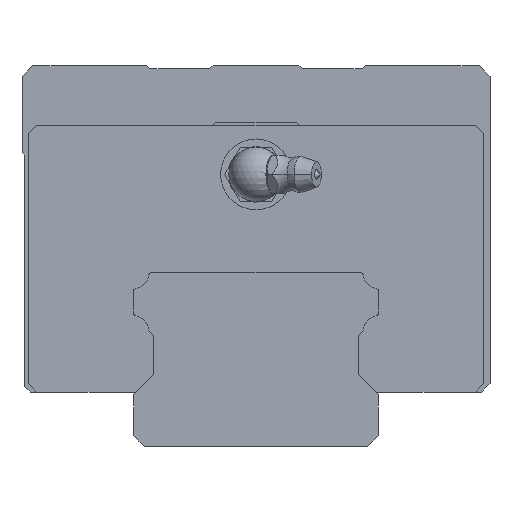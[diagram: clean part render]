
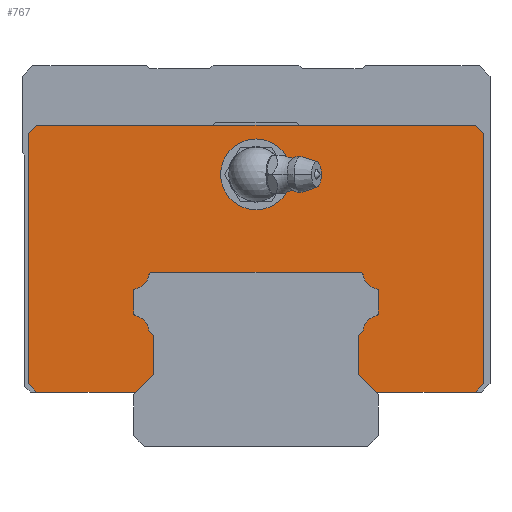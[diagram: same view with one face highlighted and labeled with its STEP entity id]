
A CAD part, front view. The second image highlights one B-rep face of the part: STEP entity #767.
In plain terms, the highlighted planar face has unit normal (0, -1, 0).
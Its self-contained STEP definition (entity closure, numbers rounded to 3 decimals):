
#412=FACE_BOUND('',#1203,.T.);
#413=FACE_BOUND('',#1204,.T.);
#623=CIRCLE('',#3537,6.5);
#624=CIRCLE('',#3538,3.2);
#625=CIRCLE('',#3539,0.5);
#626=CIRCLE('',#3540,0.5);
#627=CIRCLE('',#3541,3.2);
#628=CIRCLE('',#3542,0.5);
#629=CIRCLE('',#3543,0.5);
#630=CIRCLE('',#3544,3.2);
#631=CIRCLE('',#3545,0.5);
#632=CIRCLE('',#3546,0.5);
#633=CIRCLE('',#3547,3.2);
#767=ADVANCED_FACE('',(#412,#413),#919,.T.);
#919=PLANE('',#3548);
#1203=EDGE_LOOP('',(#1749));
#1204=EDGE_LOOP('',(#1750,#1751,#1752,#1753,#1754,#1755,#1756,#1757,#1758,
#1759,#1760,#1761,#1762,#1763,#1764,#1765,#1766,#1767,#1768,#1769,#1770,
#1771,#1772,#1773,#1774,#1775,#1776,#1777));
#1749=ORIENTED_EDGE('',*,*,#2687,.F.);
#1750=ORIENTED_EDGE('',*,*,#2688,.T.);
#1751=ORIENTED_EDGE('',*,*,#2689,.T.);
#1752=ORIENTED_EDGE('',*,*,#2690,.T.);
#1753=ORIENTED_EDGE('',*,*,#2691,.T.);
#1754=ORIENTED_EDGE('',*,*,#2692,.T.);
#1755=ORIENTED_EDGE('',*,*,#2693,.T.);
#1756=ORIENTED_EDGE('',*,*,#2694,.T.);
#1757=ORIENTED_EDGE('',*,*,#2695,.T.);
#1758=ORIENTED_EDGE('',*,*,#2696,.T.);
#1759=ORIENTED_EDGE('',*,*,#2697,.T.);
#1760=ORIENTED_EDGE('',*,*,#2698,.T.);
#1761=ORIENTED_EDGE('',*,*,#2699,.T.);
#1762=ORIENTED_EDGE('',*,*,#2700,.T.);
#1763=ORIENTED_EDGE('',*,*,#2701,.T.);
#1764=ORIENTED_EDGE('',*,*,#2702,.T.);
#1765=ORIENTED_EDGE('',*,*,#2703,.T.);
#1766=ORIENTED_EDGE('',*,*,#2704,.T.);
#1767=ORIENTED_EDGE('',*,*,#2705,.T.);
#1768=ORIENTED_EDGE('',*,*,#2706,.T.);
#1769=ORIENTED_EDGE('',*,*,#2707,.T.);
#1770=ORIENTED_EDGE('',*,*,#2708,.T.);
#1771=ORIENTED_EDGE('',*,*,#2709,.T.);
#1772=ORIENTED_EDGE('',*,*,#2710,.T.);
#1773=ORIENTED_EDGE('',*,*,#2711,.T.);
#1774=ORIENTED_EDGE('',*,*,#2712,.T.);
#1775=ORIENTED_EDGE('',*,*,#2713,.T.);
#1776=ORIENTED_EDGE('',*,*,#2714,.T.);
#1777=ORIENTED_EDGE('',*,*,#2715,.T.);
#2334=VERTEX_POINT('',#5233);
#2335=VERTEX_POINT('',#5235);
#2336=VERTEX_POINT('',#5236);
#2337=VERTEX_POINT('',#5238);
#2338=VERTEX_POINT('',#5240);
#2339=VERTEX_POINT('',#5242);
#2340=VERTEX_POINT('',#5244);
#2341=VERTEX_POINT('',#5246);
#2342=VERTEX_POINT('',#5248);
#2343=VERTEX_POINT('',#5250);
#2344=VERTEX_POINT('',#5252);
#2345=VERTEX_POINT('',#5254);
#2346=VERTEX_POINT('',#5256);
#2347=VERTEX_POINT('',#5258);
#2348=VERTEX_POINT('',#5260);
#2349=VERTEX_POINT('',#5262);
#2350=VERTEX_POINT('',#5264);
#2351=VERTEX_POINT('',#5266);
#2352=VERTEX_POINT('',#5268);
#2353=VERTEX_POINT('',#5270);
#2354=VERTEX_POINT('',#5272);
#2355=VERTEX_POINT('',#5274);
#2356=VERTEX_POINT('',#5276);
#2357=VERTEX_POINT('',#5278);
#2358=VERTEX_POINT('',#5280);
#2359=VERTEX_POINT('',#5282);
#2360=VERTEX_POINT('',#5284);
#2361=VERTEX_POINT('',#5286);
#2362=VERTEX_POINT('',#5288);
#2687=EDGE_CURVE('',#2334,#2334,#623,.T.);
#2688=EDGE_CURVE('',#2335,#2336,#3011,.T.);
#2689=EDGE_CURVE('',#2336,#2337,#3012,.T.);
#2690=EDGE_CURVE('',#2337,#2338,#3013,.T.);
#2691=EDGE_CURVE('',#2338,#2339,#3014,.T.);
#2692=EDGE_CURVE('',#2339,#2340,#3015,.T.);
#2693=EDGE_CURVE('',#2340,#2341,#3016,.T.);
#2694=EDGE_CURVE('',#2341,#2342,#3017,.T.);
#2695=EDGE_CURVE('',#2342,#2343,#3018,.T.);
#2696=EDGE_CURVE('',#2343,#2344,#3019,.T.);
#2697=EDGE_CURVE('',#2344,#2345,#3020,.T.);
#2698=EDGE_CURVE('',#2345,#2346,#3021,.T.);
#2699=EDGE_CURVE('',#2346,#2347,#3022,.T.);
#2700=EDGE_CURVE('',#2347,#2348,#3023,.T.);
#2701=EDGE_CURVE('',#2348,#2349,#3024,.T.);
#2702=EDGE_CURVE('',#2349,#2350,#624,.T.);
#2703=EDGE_CURVE('',#2350,#2351,#625,.T.);
#2704=EDGE_CURVE('',#2351,#2352,#3025,.T.);
#2705=EDGE_CURVE('',#2352,#2353,#626,.T.);
#2706=EDGE_CURVE('',#2353,#2354,#627,.T.);
#2707=EDGE_CURVE('',#2354,#2355,#628,.T.);
#2708=EDGE_CURVE('',#2355,#2356,#3026,.T.);
#2709=EDGE_CURVE('',#2356,#2357,#629,.T.);
#2710=EDGE_CURVE('',#2357,#2358,#630,.T.);
#2711=EDGE_CURVE('',#2358,#2359,#631,.T.);
#2712=EDGE_CURVE('',#2359,#2360,#3027,.T.);
#2713=EDGE_CURVE('',#2360,#2361,#632,.T.);
#2714=EDGE_CURVE('',#2361,#2362,#633,.T.);
#2715=EDGE_CURVE('',#2362,#2335,#3028,.T.);
#3011=LINE('',#5234,#3267);
#3012=LINE('',#5237,#3268);
#3013=LINE('',#5239,#3269);
#3014=LINE('',#5241,#3270);
#3015=LINE('',#5243,#3271);
#3016=LINE('',#5245,#3272);
#3017=LINE('',#5247,#3273);
#3018=LINE('',#5249,#3274);
#3019=LINE('',#5251,#3275);
#3020=LINE('',#5253,#3276);
#3021=LINE('',#5255,#3277);
#3022=LINE('',#5257,#3278);
#3023=LINE('',#5259,#3279);
#3024=LINE('',#5261,#3280);
#3025=LINE('',#5267,#3281);
#3026=LINE('',#5275,#3282);
#3027=LINE('',#5283,#3283);
#3028=LINE('',#5289,#3284);
#3267=VECTOR('',#4117,1.);
#3268=VECTOR('',#4118,1.);
#3269=VECTOR('',#4119,1.);
#3270=VECTOR('',#4120,1.);
#3271=VECTOR('',#4121,1.);
#3272=VECTOR('',#4122,1.);
#3273=VECTOR('',#4123,1.);
#3274=VECTOR('',#4124,1.);
#3275=VECTOR('',#4125,1.);
#3276=VECTOR('',#4126,1.);
#3277=VECTOR('',#4127,1.);
#3278=VECTOR('',#4128,1.);
#3279=VECTOR('',#4129,1.);
#3280=VECTOR('',#4130,1.);
#3281=VECTOR('',#4135,1.);
#3282=VECTOR('',#4142,1.);
#3283=VECTOR('',#4149,1.);
#3284=VECTOR('',#4154,1.);
#3537=AXIS2_PLACEMENT_3D('',#5232,#4115,#4116);
#3538=AXIS2_PLACEMENT_3D('',#5263,#4131,#4132);
#3539=AXIS2_PLACEMENT_3D('',#5265,#4133,#4134);
#3540=AXIS2_PLACEMENT_3D('',#5269,#4136,#4137);
#3541=AXIS2_PLACEMENT_3D('',#5271,#4138,#4139);
#3542=AXIS2_PLACEMENT_3D('',#5273,#4140,#4141);
#3543=AXIS2_PLACEMENT_3D('',#5277,#4143,#4144);
#3544=AXIS2_PLACEMENT_3D('',#5279,#4145,#4146);
#3545=AXIS2_PLACEMENT_3D('',#5281,#4147,#4148);
#3546=AXIS2_PLACEMENT_3D('',#5285,#4150,#4151);
#3547=AXIS2_PLACEMENT_3D('',#5287,#4152,#4153);
#3548=AXIS2_PLACEMENT_3D('',#5290,#4155,#4156);
#4115=DIRECTION('',(0.,-1.,0.));
#4116=DIRECTION('',(1.,0.,0.));
#4117=DIRECTION('',(0.,0.,-1.));
#4118=DIRECTION('',(0.707,0.,-0.707));
#4119=DIRECTION('',(1.,0.,0.));
#4120=DIRECTION('',(0.707,0.,0.707));
#4121=DIRECTION('',(0.,0.,1.));
#4122=DIRECTION('',(-0.707,0.,0.707));
#4123=DIRECTION('',(-1.,0.,0.));
#4124=DIRECTION('',(-0.707,0.,-0.707));
#4125=DIRECTION('',(0.,0.,-1.));
#4126=DIRECTION('',(0.707,0.,-0.707));
#4127=DIRECTION('',(1.,0.,0.));
#4128=DIRECTION('',(0.707,0.,0.707));
#4129=DIRECTION('',(0.,0.,1.));
#4130=DIRECTION('',(-0.707,0.,0.707));
#4131=DIRECTION('',(0.,-1.,0.));
#4132=DIRECTION('',(0.,0.,-1.));
#4133=DIRECTION('',(0.,1.,0.));
#4134=DIRECTION('',(0.,0.,-1.));
#4135=DIRECTION('',(0.,0.,1.));
#4136=DIRECTION('',(0.,1.,0.));
#4137=DIRECTION('',(0.,0.,-1.));
#4138=DIRECTION('',(0.,-1.,0.));
#4139=DIRECTION('',(0.,0.,-1.));
#4140=DIRECTION('',(0.,1.,0.));
#4141=DIRECTION('',(0.,0.,-1.));
#4142=DIRECTION('',(1.,0.,0.));
#4143=DIRECTION('',(0.,1.,0.));
#4144=DIRECTION('',(0.,0.,-1.));
#4145=DIRECTION('',(0.,-1.,0.));
#4146=DIRECTION('',(0.,0.,-1.));
#4147=DIRECTION('',(0.,1.,0.));
#4148=DIRECTION('',(0.,0.,-1.));
#4149=DIRECTION('',(0.,0.,-1.));
#4150=DIRECTION('',(0.,1.,0.));
#4151=DIRECTION('',(0.,0.,-1.));
#4152=DIRECTION('',(0.,-1.,0.));
#4153=DIRECTION('',(0.,0.,-1.));
#4154=DIRECTION('',(-0.707,0.,-0.707));
#4155=DIRECTION('',(0.,-1.,0.));
#4156=DIRECTION('',(0.,0.,-1.));
#5232=CARTESIAN_POINT('',(0.,-34.25,50.));
#5233=CARTESIAN_POINT('',(6.5,-34.25,50.));
#5234=CARTESIAN_POINT('',(18.75,-34.25,99.3));
#5235=CARTESIAN_POINT('',(18.75,-34.25,20.45));
#5236=CARTESIAN_POINT('',(18.75,-34.25,13.25));
#5237=CARTESIAN_POINT('',(-33.65,-34.25,65.65));
#5238=CARTESIAN_POINT('',(22.,-34.25,10.));
#5239=CARTESIAN_POINT('',(-40.3,-34.25,10.));
#5240=CARTESIAN_POINT('',(40.3,-34.25,10.));
#5241=CARTESIAN_POINT('',(40.3,-34.25,10.));
#5242=CARTESIAN_POINT('',(41.8,-34.25,11.5));
#5243=CARTESIAN_POINT('',(41.8,-34.25,11.5));
#5244=CARTESIAN_POINT('',(41.8,-34.25,57.5));
#5245=CARTESIAN_POINT('',(41.8,-34.25,57.5));
#5246=CARTESIAN_POINT('',(40.3,-34.25,59.));
#5247=CARTESIAN_POINT('',(40.3,-34.25,59.));
#5248=CARTESIAN_POINT('',(-40.3,-34.25,59.));
#5249=CARTESIAN_POINT('',(-40.3,-34.25,59.));
#5250=CARTESIAN_POINT('',(-41.8,-34.25,57.5));
#5251=CARTESIAN_POINT('',(-41.8,-34.25,57.5));
#5252=CARTESIAN_POINT('',(-41.8,-34.25,11.5));
#5253=CARTESIAN_POINT('',(-41.8,-34.25,11.5));
#5254=CARTESIAN_POINT('',(-40.3,-34.25,10.));
#5255=CARTESIAN_POINT('',(-40.3,-34.25,10.));
#5256=CARTESIAN_POINT('',(-22.,-34.25,10.));
#5257=CARTESIAN_POINT('',(33.65,-34.25,65.65));
#5258=CARTESIAN_POINT('',(-18.75,-34.25,13.25));
#5259=CARTESIAN_POINT('',(-18.75,-34.25,99.3));
#5260=CARTESIAN_POINT('',(-18.75,-34.25,20.45));
#5261=CARTESIAN_POINT('',(-48.8,-34.25,50.5));
#5262=CARTESIAN_POINT('',(-19.674,-34.25,21.374));
#5263=CARTESIAN_POINT('',(-22.84,-34.25,20.91));
#5264=CARTESIAN_POINT('',(-22.113,-34.25,24.027));
#5265=CARTESIAN_POINT('',(-22.,-34.25,24.514));
#5266=CARTESIAN_POINT('',(-22.5,-34.25,24.514));
#5267=CARTESIAN_POINT('',(-22.5,-34.25,99.3));
#5268=CARTESIAN_POINT('',(-22.5,-34.25,28.486));
#5269=CARTESIAN_POINT('',(-22.,-34.25,28.486));
#5270=CARTESIAN_POINT('',(-22.113,-34.25,28.973));
#5271=CARTESIAN_POINT('',(-22.84,-34.25,32.09));
#5272=CARTESIAN_POINT('',(-19.681,-34.25,31.58));
#5273=CARTESIAN_POINT('',(-19.187,-34.25,31.5));
#5274=CARTESIAN_POINT('',(-19.187,-34.25,32.));
#5275=CARTESIAN_POINT('',(0.,-34.25,32.));
#5276=CARTESIAN_POINT('',(19.187,-34.25,32.));
#5277=CARTESIAN_POINT('',(19.187,-34.25,31.5));
#5278=CARTESIAN_POINT('',(19.681,-34.25,31.58));
#5279=CARTESIAN_POINT('',(22.84,-34.25,32.09));
#5280=CARTESIAN_POINT('',(22.113,-34.25,28.973));
#5281=CARTESIAN_POINT('',(22.,-34.25,28.486));
#5282=CARTESIAN_POINT('',(22.5,-34.25,28.486));
#5283=CARTESIAN_POINT('',(22.5,-34.25,99.3));
#5284=CARTESIAN_POINT('',(22.5,-34.25,24.514));
#5285=CARTESIAN_POINT('',(22.,-34.25,24.514));
#5286=CARTESIAN_POINT('',(22.113,-34.25,24.027));
#5287=CARTESIAN_POINT('',(22.84,-34.25,20.91));
#5288=CARTESIAN_POINT('',(19.674,-34.25,21.374));
#5289=CARTESIAN_POINT('',(48.8,-34.25,50.5));
#5290=CARTESIAN_POINT('',(0.,-34.25,99.3));
